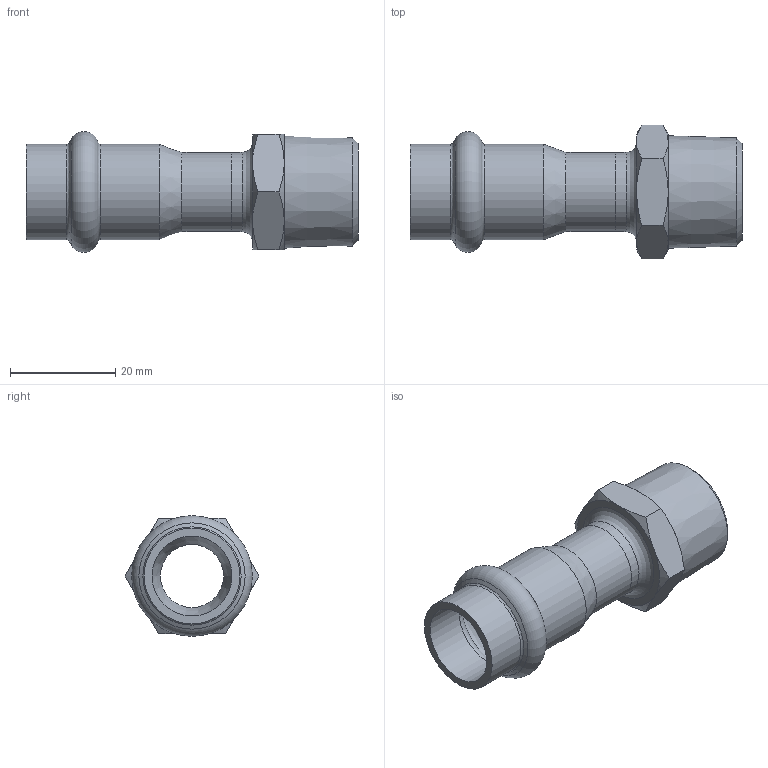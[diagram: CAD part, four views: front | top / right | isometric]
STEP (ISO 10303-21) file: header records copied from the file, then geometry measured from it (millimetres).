
FILE_DESCRIPTION((''),'2;1');
FILE_NAME('G:\Nirosan-Schmiedefeld\Technics\CAD\001 Serie 9.000\015\69243G1512H(3).stp','2018-08-28T08:26:22',('herberg'),(''),'Autodesk Inventor 2009','Autodesk Inventor 2009','');
FILE_SCHEMA(('AUTOMOTIVE_DESIGN { 1 0 10303 214 1 1 1 1 }'));
Length unit declared in the file: millimetre
Products named in the file (3): 69243G1512H(3); HM_6924315(0); AG1512(1)
Assembly tree (2 placements, depth 2):
  69243G1512H(3)
    HM_6924315(0)
    AG1512(1)
Bounding box: 63 x 25.4 x 22.89 mm (x, y, z)
Volume: 7463.8 mm3; surface area: 7420.8 mm2
Topology: 2 solids, 2 shells, 47 faces, 95 edges, 54 vertices
Faces by surface type: cone 18, plane 12, bspline 7, cylinder 7, torus 3
Full cylindrical faces by diameter (mm): 12 x1, 15 x2, 15.15 x2, 18.15 x2
Entity records: 1375 total; most frequent: CARTESIAN_POINT 485, DIRECTION 176, ORIENTED_EDGE 140, AXIS2_PLACEMENT_3D 85, EDGE_LOOP 76, EDGE_CURVE 70, VERTEX_POINT 52, FACE_OUTER_BOUND 47
